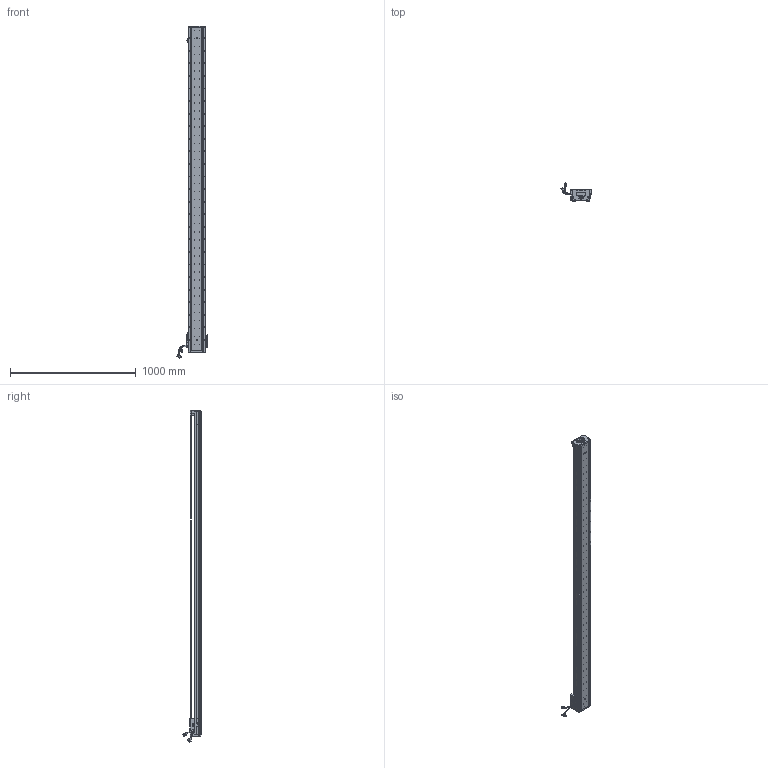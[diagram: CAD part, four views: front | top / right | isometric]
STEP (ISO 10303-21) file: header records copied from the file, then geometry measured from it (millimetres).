
FILE_DESCRIPTION (( 'STEP AP203' ), '1' );
FILE_NAME ('Z1-RY140D-1-L500-B-K.SLDASM_2400.step', '2021-05-17T07:35:04', ( '盈信电脑' ), ( '东莞市道滘镇水果街19号' ), 'SwSTEP 2.0', 'SolidWorks 2016', '' );
FILE_SCHEMA (( 'CONFIG_CONTROL_DESIGN' ));
Length unit declared in the file: millimetre
Products named in the file (36): 140-Z-臏賑輸盄裔(21遴); Z-RY140詩湍奻揤裔; 080黍杅芛假蚾釱21遴; SCREW-M1.6; Z-RY140感应器672光电感应片; 140雄赽晤鎢ん堤盄; LABEL; Z-RY140詩湍狟揤裔; PBU_SHEET; SCREW-M1.6-2; LABEL-Part-1; Z1-RY140-L500詩湍100mm遵_2400; SCALE; Z-140詩湍傷裔啣; HARNESS-Part-2; HOLDER0; SEAL; PSLH080_PSLF2; SHIELDPLATE; HARNESS; Z1-RY140-L500直线电机模组底座_2400; COVER; 140蚥薯蝶輸; Z1-RY140D-1-L500-B-K.SLDASM_2400; Z1-RY140圉猾敕臏賑輸(21遴); SCREW-M1.6-1; SCREW-M1.7-1; SCREW-M1.6-3; SCREW-M1.7; HARNESS-Part-1; SCALE-Part-2; 覜茼ん672; 榋妏寠巭燃_暯_M2_2; COVER-Part-1; SEAL-Part-1; SCALE-Part-1
Assembly tree (41 placements, depth 4):
  Z1-RY140D-1-L500-B-K.SLDASM_2400
    Z1-RY140-L500直线电机模组底座_2400
    Z-RY140感应器672光电感应片
    Z1-RY140圉猾敕臏賑輸(21遴)
    覜茼ん672  x3
    Z1-RY140-L500詩湍100mm遵_2400
    PSLH080_PSLF2
      SCALE
        SCALE-Part-1
        SCALE-Part-2
      HARNESS
        HARNESS-Part-1
        HARNESS-Part-2
      LABEL
        LABEL-Part-1
      COVER
        COVER-Part-1
      SEAL
        SEAL-Part-1
      榋妏寠巭燃_暯_M2_2
      SHIELDPLATE
      SCREW-M1.7
      SCREW-M1.7-1
      PBU_SHEET
      SCREW-M1.6
      SCREW-M1.6-1
      SCREW-M1.6-2
      SCREW-M1.6-3
      HOLDER0
    080黍杅芛假蚾釱21遴
    140-Z-臏賑輸盄裔(21遴)
    Z-140詩湍傷裔啣  x2
    Z-RY140詩湍狟揤裔  x2
    Z-RY140詩湍奻揤裔  x2
    140蚥薯蝶輸  x2
    140雄赽晤鎢ん堤盄
Bounding box: 239.79 x 143.88 x 2640.87 mm (x, y, z)
Volume: 8080141 mm3; surface area: 2141994.9 mm2
Topology: 36 solids, 36 shells, 3970 faces, 10809 edges, 6854 vertices
Faces by surface type: cylinder 2134, plane 1344, cone 370, torus 69, bspline 53
Entity records: 125777 total; most frequent: CARTESIAN_POINT 35669, ORIENTED_EDGE 18570, DIRECTION 17129, EDGE_CURVE 9285, AXIS2_PLACEMENT_3D 6346, VERTEX_POINT 6022, LINE 4437, VECTOR 4437
